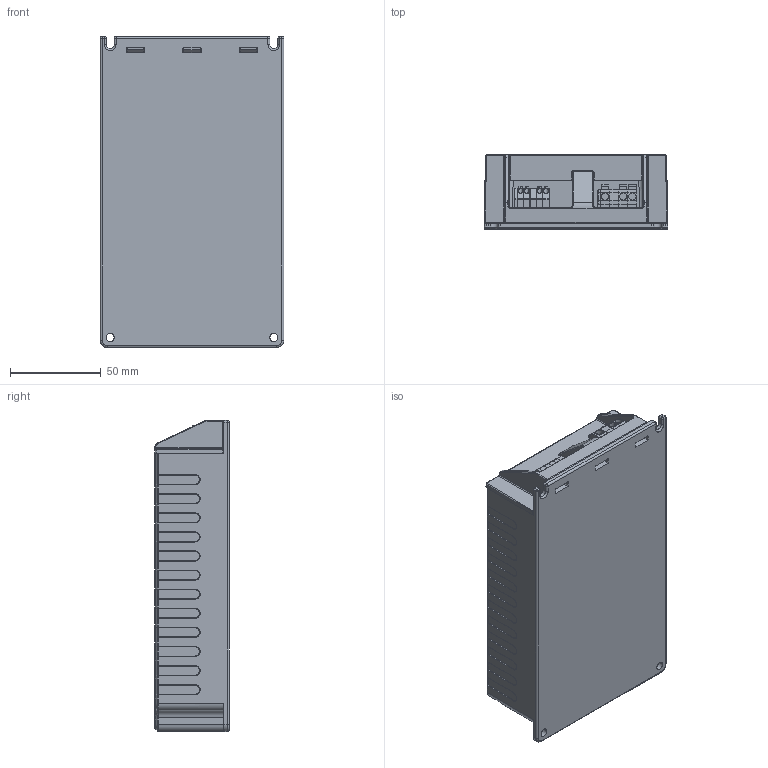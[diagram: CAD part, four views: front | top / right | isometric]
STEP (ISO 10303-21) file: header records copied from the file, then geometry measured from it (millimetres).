
FILE_DESCRIPTION(('Creo Elements/Direct Modeling STEP Export'),'2;1');
FILE_NAME('K75.2_Prog._1-10V_165W.stp','2024-06-13T 7:20:01',(''),(''),'Creo Elements/Direct Modeling STEP processor for AP214 (Solid Model)','Creo Elements/Direct Modeling 20.6 25-Mar-2023 (C) Parametric Technology GmbH','');
FILE_SCHEMA(('AUTOMOTIVE_DESIGN { 1 0 10303 214 1 1 1 1 }'));
Length unit declared in the file: millimetre
Products named in the file (4): PCB; case cover; case; K75.2_Prog._1-10V_165W
Assembly tree (3 placements, depth 2):
  K75.2_Prog._1-10V_165W
    case
    case cover
    PCB
Bounding box: 100.96 x 40.91 x 170.98 mm (x, y, z)
Volume: 146524.5 mm3; surface area: 143380.8 mm2
Topology: 3 solids, 3 shells, 1371 faces, 3406 edges, 2064 vertices
Faces by surface type: cylinder 548, plane 533, torus 198, bspline 58, sphere 30, cone 4
Entity records: 47202 total; most frequent: CARTESIAN_POINT 14932, ORIENTED_EDGE 6800, DIRECTION 6662, EDGE_CURVE 3400, AXIS2_PLACEMENT_3D 2356, VERTEX_POINT 2064, VECTOR 1950, LINE 1950
